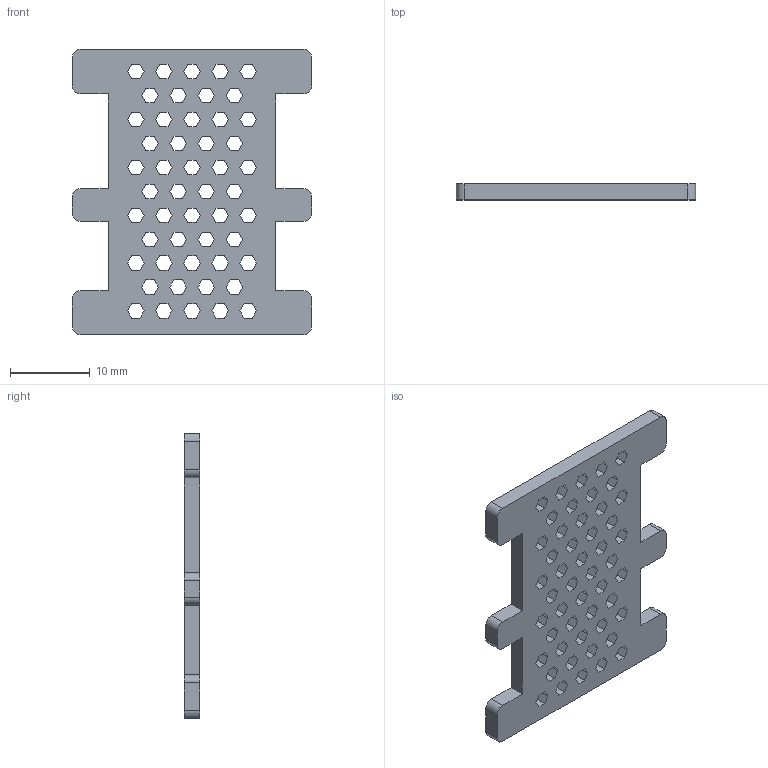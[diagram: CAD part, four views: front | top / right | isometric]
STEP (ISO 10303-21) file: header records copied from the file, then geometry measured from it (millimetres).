
FILE_DESCRIPTION(/* description */ (''),/* implementation_level */ '2;1');
FILE_NAME(/* name */ 'D:\3D Printing & CAD Work\Customers\My self\Drone 3.0\Thingiverce\Part8.stp',/* time_stamp */ '2018-11-19T19:02:16+02:00',/* author */ ('Damien'),/* organization */ (''),/* preprocessor_version */ 'ST-DEVELOPER v17',/* originating_system */ 'Autodesk Inventor 2018',/* authorisation */ '');
FILE_SCHEMA (('AUTOMOTIVE_DESIGN { 1 0 10303 214 3 1 1 }'));
Length unit declared in the file: millimetre
Products named in the file (1): Part8
Bounding box: 30 x 2 x 35.76 mm (x, y, z)
Volume: 1488.1 mm3; surface area: 2437.9 mm2
Topology: 1 solids, 1 shells, 334 faces, 996 edges, 664 vertices
Faces by surface type: plane 322, cylinder 12
Entity records: 11243 total; most frequent: CARTESIAN_POINT 1995, ORIENTED_EDGE 1992, DIRECTION 1690, EDGE_CURVE 996, LINE 972, VECTOR 972, VERTEX_POINT 664, EDGE_LOOP 434
